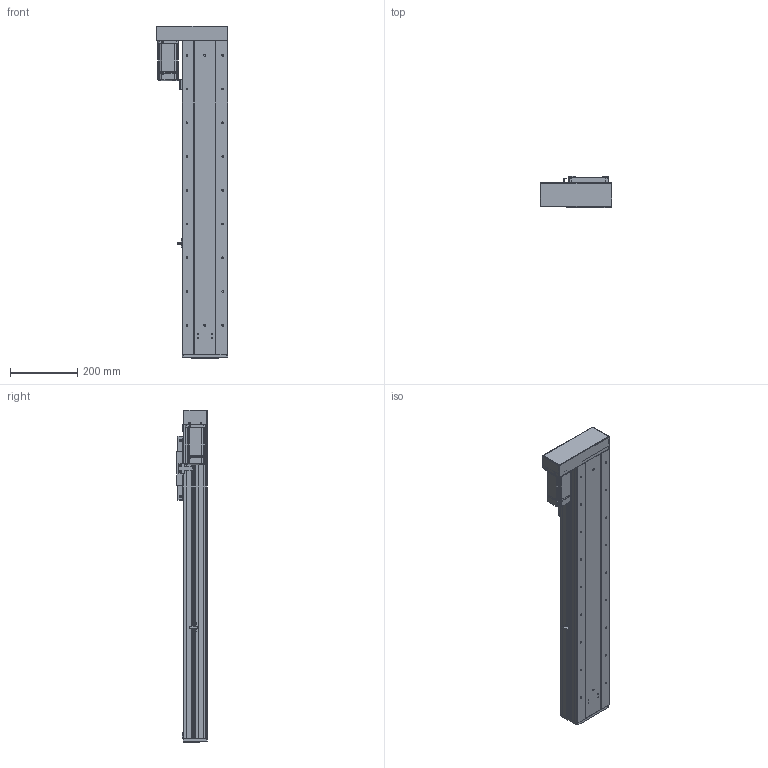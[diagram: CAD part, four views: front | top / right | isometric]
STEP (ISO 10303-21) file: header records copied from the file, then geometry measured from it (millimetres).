
FILE_DESCRIPTION (( 'STEP AP203' ), '1' );
FILE_NAME ('RY140F-L2020-300-LK.SLDASM_650.step', '2021-03-02T08:37:17', ( '盈信电脑' ), ( '东莞市道滘镇水果街19号' ), 'SwSTEP 2.0', 'SolidWorks 2012', '' );
FILE_SCHEMA (( 'CONFIG_CONTROL_DESIGN' ));
Products named in the file (19): RY140F-L2020-300-LK.SLDASM_650; RY140F-酘衵殏萇儂欶(400W); 侐源滅袉蝶; RY140F-左右折电机安装板(400W M5); RY140F-詩湍揤え; RY140F-转折折电机座（7001）; 15; 覜茼ん672; 侂狟400W侜督萇儂; RY140F-672覜茼んえ; RY140F-后盖板(铝件）; RY140F-直连型材铝滑块(16丝杆); RY100F-詩湍揤踡謫; RY140F-直连型材铝滑块连接座; RY140F-300-LK蛌殏詩湍_650; RY140F-滅鳥奻裔; RY140F-詩湍幗謫粣; RY140F-300-LK倰第奻裔啣_650; RY140F-300-LK倰第菁釱_650
Assembly tree (23 placements, depth 3):
  RY140F-L2020-300-LK.SLDASM_650
    RY140F-300-LK倰第菁釱_650
    RY140F-300-LK倰第奻裔啣_650  x2
    RY140F-300-LK蛌殏詩湍_650
    RY140F-直连型材铝滑块连接座
    RY140F-滅鳥奻裔
    RY140F-詩湍幗謫粣
    RY100F-詩湍揤踡謫
    RY140F-直连型材铝滑块(16丝杆)
    RY140F-后盖板(铝件）
    侂狟400W侜督萇儂
      15
    覜茼ん672
    RY140F-672覜茼んえ
    RY140F-詩湍揤え  x2
    侐源滅袉蝶  x4
    RY140F-转折折电机座（7001）
    RY140F-左右折电机安装板(400W M5)
    RY140F-酘衵殏萇儂欶(400W)
Bounding box: 211 x 91 x 984 mm (x, y, z)
Volume: 3943190.9 mm3; surface area: 1404504.7 mm2
Topology: 22 solids, 22 shells, 2041 faces, 5565 edges, 3528 vertices
Faces by surface type: cylinder 992, plane 789, cone 230, bspline 26, torus 4
Entity records: 64391 total; most frequent: CARTESIAN_POINT 13609, DIRECTION 10322, ORIENTED_EDGE 10010, EDGE_CURVE 5005, AXIS2_PLACEMENT_3D 3705, VERTEX_POINT 3268, LINE 2912, VECTOR 2912
